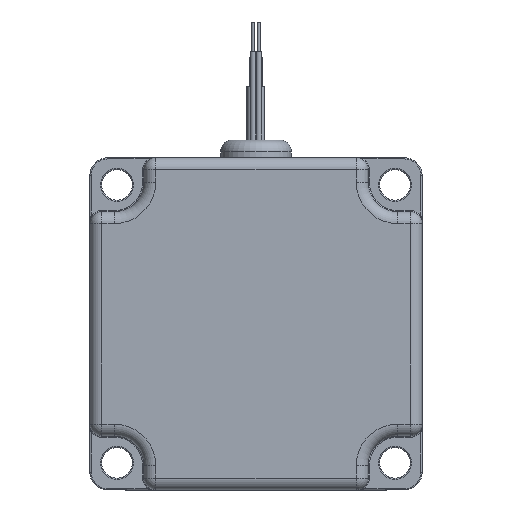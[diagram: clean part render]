
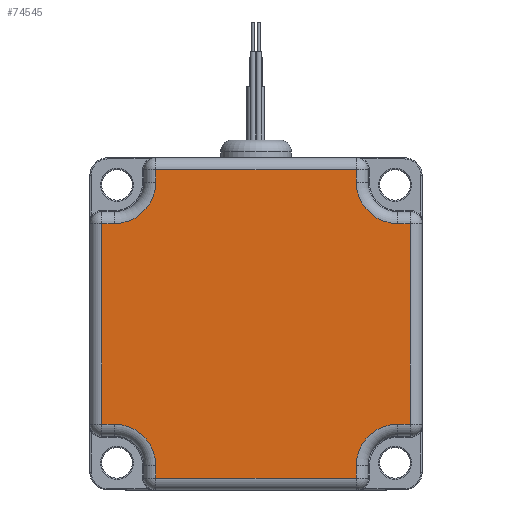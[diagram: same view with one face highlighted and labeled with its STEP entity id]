
A CAD part, front view. The second image highlights one B-rep face of the part: STEP entity #74545.
In plain terms, the highlighted planar face has unit normal (0, -1, 0).
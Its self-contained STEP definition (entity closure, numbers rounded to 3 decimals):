
#457 = CARTESIAN_POINT ( 'NONE',  ( 17., -40., 26.15 ) ) ;
#1547 = ORIENTED_EDGE ( 'NONE', *, *, #93500, .T. ) ;
#2057 = ORIENTED_EDGE ( 'NONE', *, *, #51996, .T. ) ;
#4325 = CARTESIAN_POINT ( 'NONE',  ( 17., -40., 0. ) ) ;
#6006 = ORIENTED_EDGE ( 'NONE', *, *, #51343, .T. ) ;
#6108 = VERTEX_POINT ( 'NONE', #74673 ) ;
#6435 = ORIENTED_EDGE ( 'NONE', *, *, #31150, .T. ) ;
#6719 = VERTEX_POINT ( 'NONE', #80079 ) ;
#6858 = EDGE_CURVE ( 'NONE', #68444, #6108, #113326, .T. ) ;
#9488 = DIRECTION ( 'NONE',  ( -1., 0., 0. ) ) ;
#10039 = DIRECTION ( 'NONE',  ( 0., 0., -1. ) ) ;
#10809 = CARTESIAN_POINT ( 'NONE',  ( -26.15, -40., -17. ) ) ;
#10931 = DIRECTION ( 'NONE',  ( 1., 0., 0. ) ) ;
#13626 = VERTEX_POINT ( 'NONE', #10809 ) ;
#16264 = CARTESIAN_POINT ( 'NONE',  ( 17., -40., 28.15 ) ) ;
#16629 = DIRECTION ( 'NONE',  ( 1., 0., 0. ) ) ;
#18953 = VECTOR ( 'NONE', #16629, 1000. ) ;
#19008 = ORIENTED_EDGE ( 'NONE', *, *, #111033, .T. ) ;
#19888 = VECTOR ( 'NONE', #98835, 1000. ) ;
#20064 = LINE ( 'NONE', #37949, #31369 ) ;
#21632 = EDGE_CURVE ( 'NONE', #87749, #6719, #36018, .T. ) ;
#22064 = VERTEX_POINT ( 'NONE', #38285 ) ;
#22451 = ORIENTED_EDGE ( 'NONE', *, *, #24383, .T. ) ;
#23395 = AXIS2_PLACEMENT_3D ( 'NONE', #92895, #84827, #54494 ) ;
#24383 = EDGE_CURVE ( 'NONE', #24664, #112044, #33257, .T. ) ;
#24557 = LINE ( 'NONE', #52951, #19888 ) ;
#24664 = VERTEX_POINT ( 'NONE', #72962 ) ;
#24821 = EDGE_CURVE ( 'NONE', #121620, #13626, #24557, .T. ) ;
#24869 = CARTESIAN_POINT ( 'NONE',  ( -26.15, -40., 17. ) ) ;
#25858 = LINE ( 'NONE', #53666, #18953 ) ;
#26708 = ORIENTED_EDGE ( 'NONE', *, *, #68312, .T. ) ;
#29797 = CARTESIAN_POINT ( 'NONE',  ( -24., -40., 24. ) ) ;
#31150 = EDGE_CURVE ( 'NONE', #86438, #115982, #104794, .T. ) ;
#31369 = VECTOR ( 'NONE', #113483, 1000. ) ;
#32945 = CARTESIAN_POINT ( 'NONE',  ( -28.15, -40., 17. ) ) ;
#33257 = CIRCLE ( 'NONE', #23395, 7. ) ;
#36018 = LINE ( 'NONE', #73796, #36401 ) ;
#36305 = LINE ( 'NONE', #74072, #107970 ) ;
#36401 = VECTOR ( 'NONE', #10039, 1000. ) ;
#37949 = CARTESIAN_POINT ( 'NONE',  ( 26.15, -40., 0. ) ) ;
#38285 = CARTESIAN_POINT ( 'NONE',  ( -24., -40., -17. ) ) ;
#39065 = AXIS2_PLACEMENT_3D ( 'NONE', #39595, #113325, #76784 ) ;
#39595 = CARTESIAN_POINT ( 'NONE',  ( -24., -40., -24. ) ) ;
#40287 = CARTESIAN_POINT ( 'NONE',  ( 26.15, -40., -17. ) ) ;
#41802 = CARTESIAN_POINT ( 'NONE',  ( -17., -40., 24. ) ) ;
#41969 = CARTESIAN_POINT ( 'NONE',  ( 17., -40., 24. ) ) ;
#46404 = VECTOR ( 'NONE', #9488, 1000. ) ;
#46464 = DIRECTION ( 'NONE',  ( 0., 0., 1. ) ) ;
#47324 = VERTEX_POINT ( 'NONE', #40287 ) ;
#47815 = EDGE_CURVE ( 'NONE', #78144, #50476, #84632, .T. ) ;
#48172 = FACE_OUTER_BOUND ( 'NONE', #85259, .T. ) ;
#48778 = DIRECTION ( 'NONE',  ( 0., 0., -1. ) ) ;
#49364 = DIRECTION ( 'NONE',  ( 0., -1., 0. ) ) ;
#50476 = VERTEX_POINT ( 'NONE', #58709 ) ;
#50705 = LINE ( 'NONE', #77389, #51450 ) ;
#51343 = EDGE_CURVE ( 'NONE', #22064, #87749, #56848, .T. ) ;
#51450 = VECTOR ( 'NONE', #116281, 1000. ) ;
#51996 = EDGE_CURVE ( 'NONE', #47324, #86438, #20064, .T. ) ;
#52321 = EDGE_CURVE ( 'NONE', #99534, #24664, #107679, .T. ) ;
#52951 = CARTESIAN_POINT ( 'NONE',  ( -26.15, -40., -19. ) ) ;
#53666 = CARTESIAN_POINT ( 'NONE',  ( 0., -40., -17. ) ) ;
#53872 = EDGE_CURVE ( 'NONE', #115982, #58190, #75672, .T. ) ;
#54494 = DIRECTION ( 'NONE',  ( 0., 0., -1. ) ) ;
#56848 = CIRCLE ( 'NONE', #39065, 7. ) ;
#58190 = VERTEX_POINT ( 'NONE', #41969 ) ;
#58709 = CARTESIAN_POINT ( 'NONE',  ( -17., -40., 26.15 ) ) ;
#62049 = LINE ( 'NONE', #32945, #101895 ) ;
#64584 = LINE ( 'NONE', #102973, #111645 ) ;
#67319 = CARTESIAN_POINT ( 'NONE',  ( 0., -40., 26.15 ) ) ;
#68312 = EDGE_CURVE ( 'NONE', #13626, #22064, #25858, .T. ) ;
#68444 = VERTEX_POINT ( 'NONE', #41802 ) ;
#69210 = PLANE ( 'NONE',  #104663 ) ;
#69843 = AXIS2_PLACEMENT_3D ( 'NONE', #29797, #95389, #86160 ) ;
#70714 = DIRECTION ( 'NONE',  ( -1., 0., 0. ) ) ;
#71520 = ORIENTED_EDGE ( 'NONE', *, *, #53872, .T. ) ;
#72962 = CARTESIAN_POINT ( 'NONE',  ( 17., -40., -24. ) ) ;
#73274 = EDGE_CURVE ( 'NONE', #112044, #47324, #36305, .T. ) ;
#73796 = CARTESIAN_POINT ( 'NONE',  ( -17., -40., -28.15 ) ) ;
#74072 = CARTESIAN_POINT ( 'NONE',  ( 28.15, -40., -17. ) ) ;
#74545 = ADVANCED_FACE ( 'NONE', ( #48172 ), #69210, .T. ) ;
#74673 = CARTESIAN_POINT ( 'NONE',  ( -24., -40., 17. ) ) ;
#75672 = CIRCLE ( 'NONE', #101405, 7. ) ;
#76307 = CARTESIAN_POINT ( 'NONE',  ( 24., -40., 17. ) ) ;
#76784 = DIRECTION ( 'NONE',  ( 0., 0., -1. ) ) ;
#76888 = CARTESIAN_POINT ( 'NONE',  ( 26.15, -40., 17. ) ) ;
#77389 = CARTESIAN_POINT ( 'NONE',  ( 19., -40., -26.15 ) ) ;
#78144 = VERTEX_POINT ( 'NONE', #457 ) ;
#79112 = ORIENTED_EDGE ( 'NONE', *, *, #52321, .T. ) ;
#80079 = CARTESIAN_POINT ( 'NONE',  ( -17., -40., -26.15 ) ) ;
#83639 = LINE ( 'NONE', #16264, #116499 ) ;
#84632 = LINE ( 'NONE', #67319, #89562 ) ;
#84827 = DIRECTION ( 'NONE',  ( 0., 1., 0. ) ) ;
#85259 = EDGE_LOOP ( 'NONE', ( #92180, #108352, #79112, #22451, #115934, #2057, #6435, #71520, #1547, #105917, #19008, #95390, #118604, #120905, #26708, #6006 ) ) ;
#86160 = DIRECTION ( 'NONE',  ( 0., 0., -1. ) ) ;
#86438 = VERTEX_POINT ( 'NONE', #76888 ) ;
#87749 = VERTEX_POINT ( 'NONE', #115534 ) ;
#89562 = VECTOR ( 'NONE', #102624, 1000. ) ;
#90458 = EDGE_CURVE ( 'NONE', #6108, #121620, #62049, .T. ) ;
#92005 = CARTESIAN_POINT ( 'NONE',  ( 24., -40., -17. ) ) ;
#92180 = ORIENTED_EDGE ( 'NONE', *, *, #21632, .T. ) ;
#92895 = CARTESIAN_POINT ( 'NONE',  ( 24., -40., -24. ) ) ;
#93500 = EDGE_CURVE ( 'NONE', #58190, #78144, #83639, .T. ) ;
#94755 = VECTOR ( 'NONE', #98408, 1000. ) ;
#95389 = DIRECTION ( 'NONE',  ( 0., 1., 0. ) ) ;
#95390 = ORIENTED_EDGE ( 'NONE', *, *, #6858, .T. ) ;
#98408 = DIRECTION ( 'NONE',  ( 0., 0., 1. ) ) ;
#98835 = DIRECTION ( 'NONE',  ( 0., 0., -1. ) ) ;
#99534 = VERTEX_POINT ( 'NONE', #115831 ) ;
#99834 = EDGE_CURVE ( 'NONE', #6719, #99534, #50705, .T. ) ;
#101405 = AXIS2_PLACEMENT_3D ( 'NONE', #113357, #104110, #114537 ) ;
#101895 = VECTOR ( 'NONE', #70714, 1000. ) ;
#102380 = DIRECTION ( 'NONE',  ( 0., 0., -1. ) ) ;
#102624 = DIRECTION ( 'NONE',  ( -1., 0., 0. ) ) ;
#102973 = CARTESIAN_POINT ( 'NONE',  ( -17., -40., 0. ) ) ;
#104110 = DIRECTION ( 'NONE',  ( 0., 1., 0. ) ) ;
#104663 = AXIS2_PLACEMENT_3D ( 'NONE', #105783, #49364, #48778 ) ;
#104794 = LINE ( 'NONE', #113429, #46404 ) ;
#105783 = CARTESIAN_POINT ( 'NONE',  ( 0., -40., 0. ) ) ;
#105917 = ORIENTED_EDGE ( 'NONE', *, *, #47815, .T. ) ;
#107679 = LINE ( 'NONE', #4325, #94755 ) ;
#107970 = VECTOR ( 'NONE', #10931, 1000. ) ;
#108352 = ORIENTED_EDGE ( 'NONE', *, *, #99834, .T. ) ;
#111033 = EDGE_CURVE ( 'NONE', #50476, #68444, #64584, .T. ) ;
#111645 = VECTOR ( 'NONE', #102380, 1000. ) ;
#112044 = VERTEX_POINT ( 'NONE', #92005 ) ;
#113325 = DIRECTION ( 'NONE',  ( 0., 1., 0. ) ) ;
#113326 = CIRCLE ( 'NONE', #69843, 7. ) ;
#113357 = CARTESIAN_POINT ( 'NONE',  ( 24., -40., 24. ) ) ;
#113429 = CARTESIAN_POINT ( 'NONE',  ( 0., -40., 17. ) ) ;
#113483 = DIRECTION ( 'NONE',  ( 0., 0., 1. ) ) ;
#114537 = DIRECTION ( 'NONE',  ( 0., 0., -1. ) ) ;
#115534 = CARTESIAN_POINT ( 'NONE',  ( -17., -40., -24. ) ) ;
#115831 = CARTESIAN_POINT ( 'NONE',  ( 17., -40., -26.15 ) ) ;
#115934 = ORIENTED_EDGE ( 'NONE', *, *, #73274, .T. ) ;
#115982 = VERTEX_POINT ( 'NONE', #76307 ) ;
#116281 = DIRECTION ( 'NONE',  ( 1., 0., 0. ) ) ;
#116499 = VECTOR ( 'NONE', #46464, 1000. ) ;
#118604 = ORIENTED_EDGE ( 'NONE', *, *, #90458, .T. ) ;
#120905 = ORIENTED_EDGE ( 'NONE', *, *, #24821, .T. ) ;
#121620 = VERTEX_POINT ( 'NONE', #24869 ) ;
